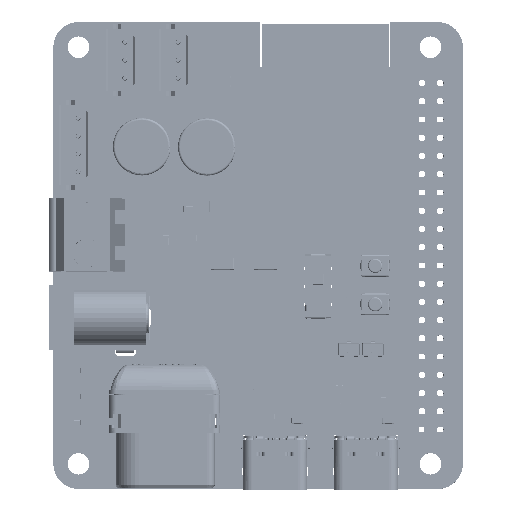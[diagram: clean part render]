
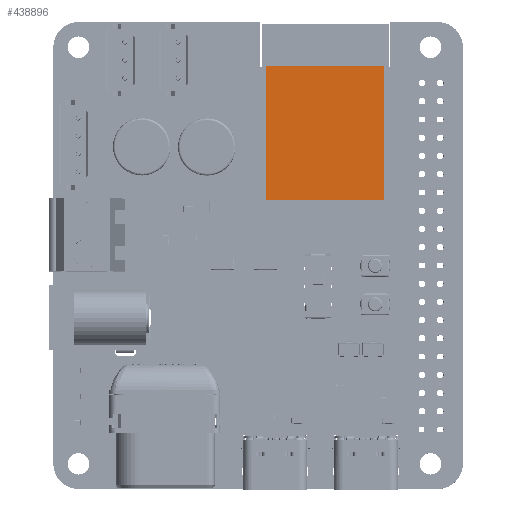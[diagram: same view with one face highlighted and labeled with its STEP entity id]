
A CAD part, top view. The second image highlights one B-rep face of the part: STEP entity #438896.
In plain terms, the highlighted planar face has unit normal (0, 0, 1).
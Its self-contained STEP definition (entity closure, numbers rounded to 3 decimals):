
#438582 = VERTEX_POINT('',#438583);
#438583 = CARTESIAN_POINT('',(8.15,-9.3,2.3));
#438590 = PLANE('',#438591);
#438591 = AXIS2_PLACEMENT_3D('',#438592,#438593,#438594);
#438592 = CARTESIAN_POINT('',(8.15,-9.3,0.));
#438593 = DIRECTION('',(0.,-1.,0.));
#438594 = DIRECTION('',(-1.,0.,0.));
#438602 = PLANE('',#438603);
#438603 = AXIS2_PLACEMENT_3D('',#438604,#438605,#438606);
#438604 = CARTESIAN_POINT('',(8.15,9.3,0.));
#438605 = DIRECTION('',(1.,0.,0.));
#438606 = DIRECTION('',(0.,-1.,0.));
#438614 = EDGE_CURVE('',#438582,#438615,#438617,.T.);
#438615 = VERTEX_POINT('',#438616);
#438616 = CARTESIAN_POINT('',(-8.15,-9.3,2.3));
#438617 = SURFACE_CURVE('',#438618,(#438622,#438629),.PCURVE_S1.);
#438618 = LINE('',#438619,#438620);
#438619 = CARTESIAN_POINT('',(8.15,-9.3,2.3));
#438620 = VECTOR('',#438621,1.);
#438621 = DIRECTION('',(-1.,0.,0.));
#438622 = PCURVE('',#438590,#438623);
#438623 = DEFINITIONAL_REPRESENTATION('',(#438624),#438628);
#438624 = LINE('',#438625,#438626);
#438625 = CARTESIAN_POINT('',(0.,-2.3));
#438626 = VECTOR('',#438627,1.);
#438627 = DIRECTION('',(1.,0.));
#438628 = ( GEOMETRIC_REPRESENTATION_CONTEXT(2) 
PARAMETRIC_REPRESENTATION_CONTEXT() REPRESENTATION_CONTEXT('2D SPACE',''
  ) );
#438629 = PCURVE('',#438630,#438635);
#438630 = PLANE('',#438631);
#438631 = AXIS2_PLACEMENT_3D('',#438632,#438633,#438634);
#438632 = CARTESIAN_POINT('',(8.15,-9.3,2.3));
#438633 = DIRECTION('',(0.,0.,1.));
#438634 = DIRECTION('',(1.,0.,0.));
#438635 = DEFINITIONAL_REPRESENTATION('',(#438636),#438640);
#438636 = LINE('',#438637,#438638);
#438637 = CARTESIAN_POINT('',(0.,0.));
#438638 = VECTOR('',#438639,1.);
#438639 = DIRECTION('',(-1.,0.));
#438640 = ( GEOMETRIC_REPRESENTATION_CONTEXT(2) 
PARAMETRIC_REPRESENTATION_CONTEXT() REPRESENTATION_CONTEXT('2D SPACE',''
  ) );
#438658 = PLANE('',#438659);
#438659 = AXIS2_PLACEMENT_3D('',#438660,#438661,#438662);
#438660 = CARTESIAN_POINT('',(-8.15,-9.3,0.));
#438661 = DIRECTION('',(-1.,0.,0.));
#438662 = DIRECTION('',(0.,1.,0.));
#438700 = EDGE_CURVE('',#438615,#438701,#438703,.T.);
#438701 = VERTEX_POINT('',#438702);
#438702 = CARTESIAN_POINT('',(-8.15,9.3,2.3));
#438703 = SURFACE_CURVE('',#438704,(#438708,#438715),.PCURVE_S1.);
#438704 = LINE('',#438705,#438706);
#438705 = CARTESIAN_POINT('',(-8.15,-9.3,2.3));
#438706 = VECTOR('',#438707,1.);
#438707 = DIRECTION('',(0.,1.,0.));
#438708 = PCURVE('',#438658,#438709);
#438709 = DEFINITIONAL_REPRESENTATION('',(#438710),#438714);
#438710 = LINE('',#438711,#438712);
#438711 = CARTESIAN_POINT('',(0.,-2.3));
#438712 = VECTOR('',#438713,1.);
#438713 = DIRECTION('',(1.,0.));
#438714 = ( GEOMETRIC_REPRESENTATION_CONTEXT(2) 
PARAMETRIC_REPRESENTATION_CONTEXT() REPRESENTATION_CONTEXT('2D SPACE',''
  ) );
#438715 = PCURVE('',#438630,#438716);
#438716 = DEFINITIONAL_REPRESENTATION('',(#438717),#438721);
#438717 = LINE('',#438718,#438719);
#438718 = CARTESIAN_POINT('',(-16.3,0.));
#438719 = VECTOR('',#438720,1.);
#438720 = DIRECTION('',(0.,1.));
#438721 = ( GEOMETRIC_REPRESENTATION_CONTEXT(2) 
PARAMETRIC_REPRESENTATION_CONTEXT() REPRESENTATION_CONTEXT('2D SPACE',''
  ) );
#438739 = PLANE('',#438740);
#438740 = AXIS2_PLACEMENT_3D('',#438741,#438742,#438743);
#438741 = CARTESIAN_POINT('',(-8.15,9.3,0.));
#438742 = DIRECTION('',(0.,1.,0.));
#438743 = DIRECTION('',(1.,0.,0.));
#438776 = EDGE_CURVE('',#438701,#438777,#438779,.T.);
#438777 = VERTEX_POINT('',#438778);
#438778 = CARTESIAN_POINT('',(8.15,9.3,2.3));
#438779 = SURFACE_CURVE('',#438780,(#438784,#438791),.PCURVE_S1.);
#438780 = LINE('',#438781,#438782);
#438781 = CARTESIAN_POINT('',(-8.15,9.3,2.3));
#438782 = VECTOR('',#438783,1.);
#438783 = DIRECTION('',(1.,0.,0.));
#438784 = PCURVE('',#438739,#438785);
#438785 = DEFINITIONAL_REPRESENTATION('',(#438786),#438790);
#438786 = LINE('',#438787,#438788);
#438787 = CARTESIAN_POINT('',(0.,-2.3));
#438788 = VECTOR('',#438789,1.);
#438789 = DIRECTION('',(1.,0.));
#438790 = ( GEOMETRIC_REPRESENTATION_CONTEXT(2) 
PARAMETRIC_REPRESENTATION_CONTEXT() REPRESENTATION_CONTEXT('2D SPACE',''
  ) );
#438791 = PCURVE('',#438630,#438792);
#438792 = DEFINITIONAL_REPRESENTATION('',(#438793),#438797);
#438793 = LINE('',#438794,#438795);
#438794 = CARTESIAN_POINT('',(-16.3,18.6));
#438795 = VECTOR('',#438796,1.);
#438796 = DIRECTION('',(1.,0.));
#438797 = ( GEOMETRIC_REPRESENTATION_CONTEXT(2) 
PARAMETRIC_REPRESENTATION_CONTEXT() REPRESENTATION_CONTEXT('2D SPACE',''
  ) );
#438847 = EDGE_CURVE('',#438777,#438582,#438848,.T.);
#438848 = SURFACE_CURVE('',#438849,(#438853,#438860),.PCURVE_S1.);
#438849 = LINE('',#438850,#438851);
#438850 = CARTESIAN_POINT('',(8.15,9.3,2.3));
#438851 = VECTOR('',#438852,1.);
#438852 = DIRECTION('',(0.,-1.,0.));
#438853 = PCURVE('',#438602,#438854);
#438854 = DEFINITIONAL_REPRESENTATION('',(#438855),#438859);
#438855 = LINE('',#438856,#438857);
#438856 = CARTESIAN_POINT('',(0.,-2.3));
#438857 = VECTOR('',#438858,1.);
#438858 = DIRECTION('',(1.,0.));
#438859 = ( GEOMETRIC_REPRESENTATION_CONTEXT(2) 
PARAMETRIC_REPRESENTATION_CONTEXT() REPRESENTATION_CONTEXT('2D SPACE',''
  ) );
#438860 = PCURVE('',#438630,#438861);
#438861 = DEFINITIONAL_REPRESENTATION('',(#438862),#438866);
#438862 = LINE('',#438863,#438864);
#438863 = CARTESIAN_POINT('',(0.,18.6));
#438864 = VECTOR('',#438865,1.);
#438865 = DIRECTION('',(0.,-1.));
#438866 = ( GEOMETRIC_REPRESENTATION_CONTEXT(2) 
PARAMETRIC_REPRESENTATION_CONTEXT() REPRESENTATION_CONTEXT('2D SPACE',''
  ) );
#438896 = ADVANCED_FACE('',(#438897),#438630,.T.);
#438897 = FACE_BOUND('',#438898,.F.);
#438898 = EDGE_LOOP('',(#438899,#438900,#438901,#438902));
#438899 = ORIENTED_EDGE('',*,*,#438614,.T.);
#438900 = ORIENTED_EDGE('',*,*,#438700,.T.);
#438901 = ORIENTED_EDGE('',*,*,#438776,.T.);
#438902 = ORIENTED_EDGE('',*,*,#438847,.T.);
